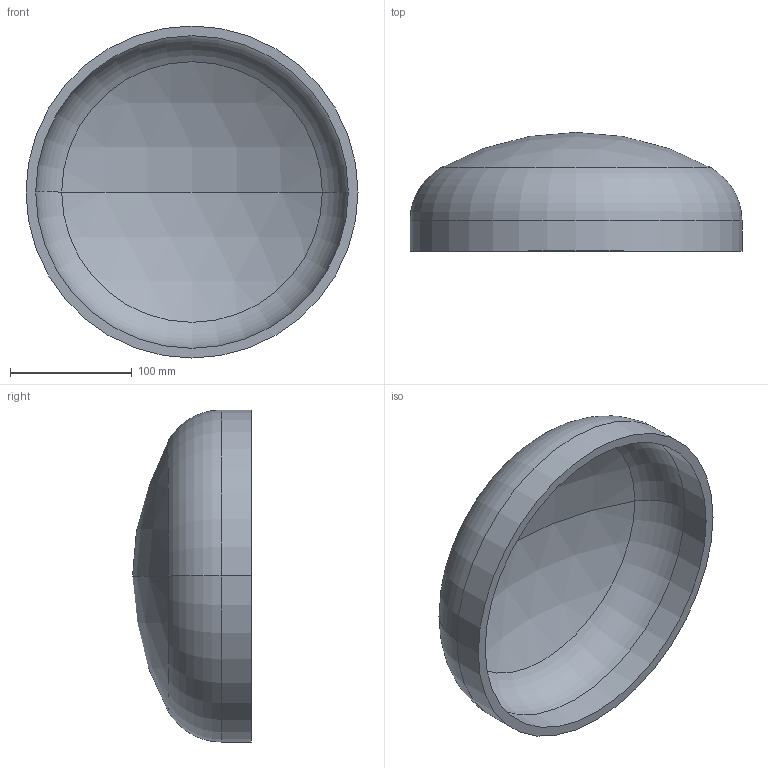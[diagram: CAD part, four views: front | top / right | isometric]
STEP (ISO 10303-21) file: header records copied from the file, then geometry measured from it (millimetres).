
FILE_DESCRIPTION (( 'STEP AP203' ), '1' );
FILE_NAME ('DIN 28013 Korbbogenform_-_Boden DIN 28013 - 273 x 25 - I - s=8.step', '2016-07-01T07:42:57', ( '' ), ( '' ), 'SwSTEP 2.0', 'SolidWorks 2013', '' );
FILE_SCHEMA (( 'CONFIG_CONTROL_DESIGN' ));
Length unit declared in the file: millimetre
Products named in the file (1): DIN 28013 Korbbogenform_-_Boden DIN 28013 - 273 x 25 - I - s=8
Bounding box: 273 x 97.72 x 273 mm (x, y, z)
Volume: 790651.7 mm3; surface area: 204457.1 mm2
Topology: 1 solids, 1 shells, 13 faces, 24 edges, 14 vertices
Faces by surface type: torus 4, cylinder 4, sphere 4, plane 1
Entity records: 407 total; most frequent: DIRECTION 72, CARTESIAN_POINT 52, ORIENTED_EDGE 48, AXIS2_PLACEMENT_3D 34, EDGE_CURVE 24, CIRCLE 20, VERTEX_POINT 14, EDGE_LOOP 14
